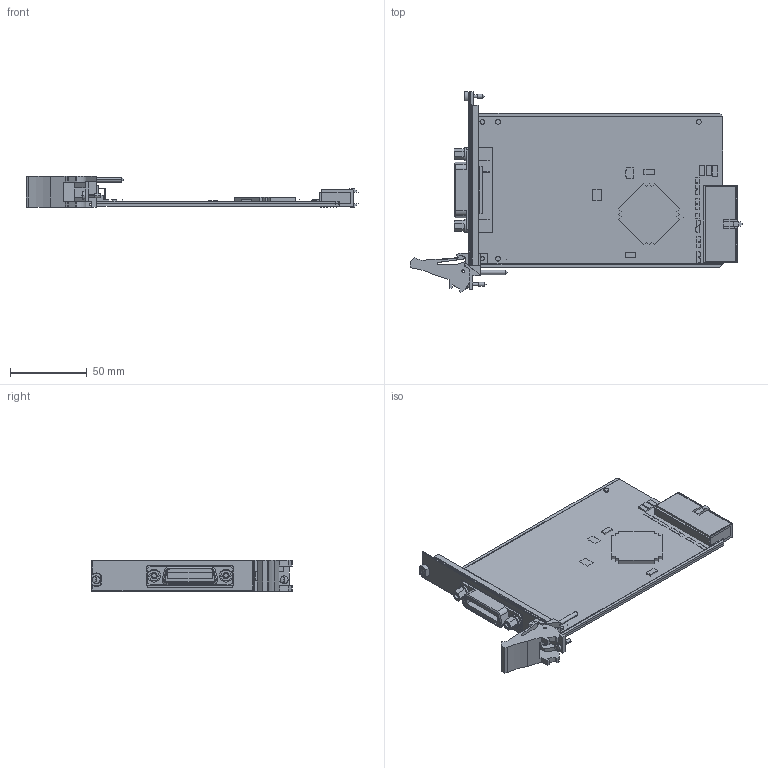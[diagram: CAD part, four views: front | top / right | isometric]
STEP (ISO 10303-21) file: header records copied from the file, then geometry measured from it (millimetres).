
FILE_DESCRIPTION((''),'2;1');
FILE_NAME('CU_PXI-GPIB-SW','2013-09-05T',('gvillanu'),(''),'PRO/ENGINEER BY PARAMETRIC TECHNOLOGY CORPORATION, 2011490','PRO/ENGINEER BY PARAMETRIC TECHNOLOGY CORPORATION, 2011490','');
FILE_SCHEMA(('CONFIG_CONTROL_DESIGN'));
Length unit declared in the file: inch
Products named in the file (1): CU_PXI-GPIB-SW
Bounding box: 216.08 x 130.62 x 20.19 mm (x, y, z)
Surface area: 79419.2 mm2 (no closed solid volume)
Topology: 0 solids, 68 shells, 524 faces, 1707 edges, 1245 vertices
Faces by surface type: plane 379, cylinder 127, cone 10, sphere 4, torus 4
Entity records: 18602 total; most frequent: CARTESIAN_POINT 3478, DIRECTION 3127, ORIENTED_EDGE 2787, EDGE_CURVE 1703, VECTOR 1325, LINE 1325, VERTEX_POINT 1245, AXIS2_PLACEMENT_3D 901
